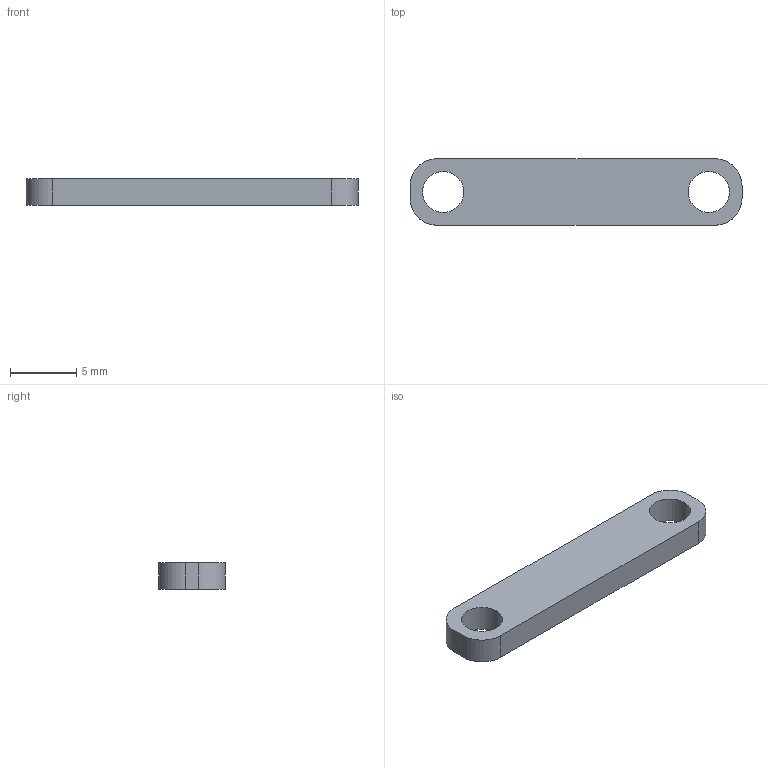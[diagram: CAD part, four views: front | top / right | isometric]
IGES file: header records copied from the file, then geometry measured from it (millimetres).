
Global section: file name: No Iges File Name specified; native system: Autodesk Inventor 2009; preprocessor: AutoDesk Inventor Iges Exporter R2009; author: hide; date: 20090826.065023; units: millimetre
Bounding box: 25 x 5 x 2 mm (x, y, z)
Volume: 212.9 mm3; surface area: 365 mm2
Topology: 1 solids, 1 shells, 14 faces, 36 edges, 24 vertices
Faces by surface type: plane 6, revolution 4, cylinder 4
